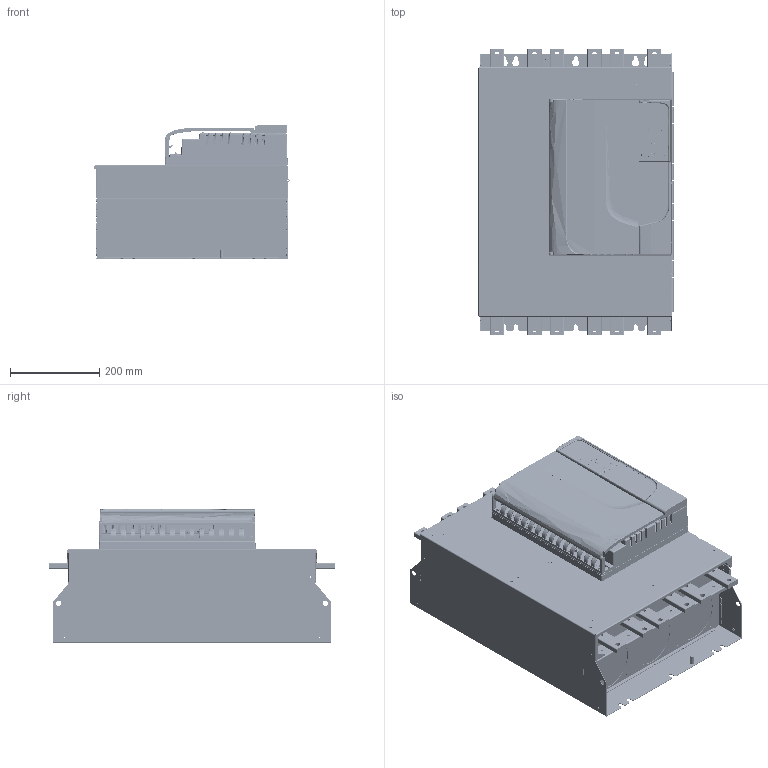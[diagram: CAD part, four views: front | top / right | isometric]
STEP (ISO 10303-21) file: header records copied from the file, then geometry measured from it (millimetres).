
FILE_DESCRIPTION (( 'STEP AP214' ), '1' );
FILE_NAME ('722-13724-00B.STEP', '2012-01-19T20:24:24', ( 'Mech Eng Contractor' ), ( 'AuCom Electronics Ltd' ), 'SwSTEP 2.0', 'SolidWorks 2010', '' );
FILE_SCHEMA (( 'AUTOMOTIVE_DESIGN' ));
Length unit declared in the file: millimetre
Products named in the file (1): 722-13724-00B
Bounding box: 436.5 x 640 x 300.45 mm (x, y, z)
Volume: 47965241 mm3; surface area: 2404816.9 mm2
Topology: 2 solids, 42 shells, 11552 faces, 29243 edges, 18017 vertices
Faces by surface type: plane 4513, bspline 2712, cylinder 2610, torus 759, cone 599, sphere 359
Entity records: 566741 total; most frequent: CARTESIAN_POINT 182242, ORIENTED_EDGE 57722, DIRECTION 47339, EDGE_CURVE 28861, VERTEX_POINT 18017, AXIS2_PLACEMENT_3D 15966, VECTOR 15407, LINE 15407
